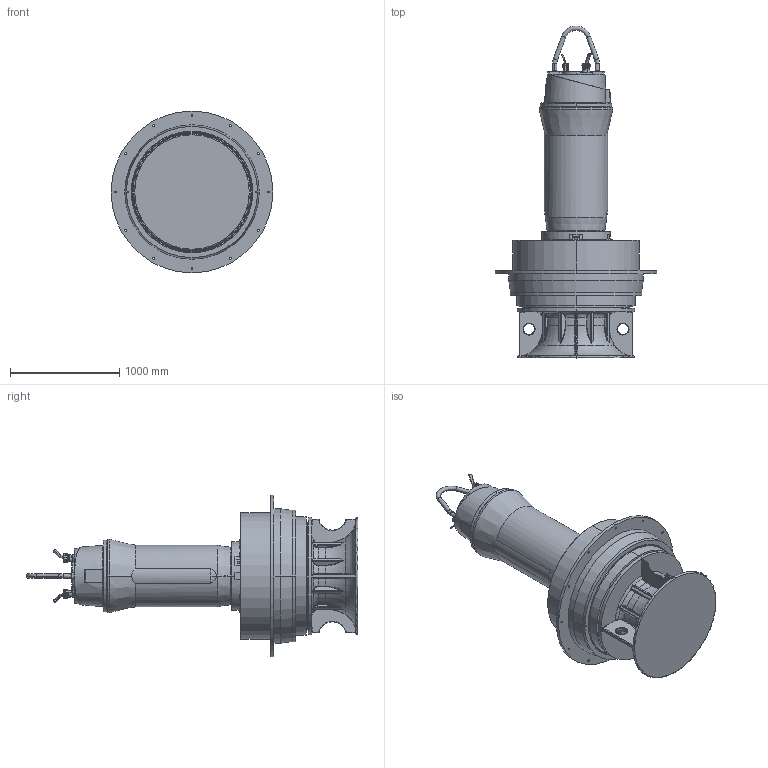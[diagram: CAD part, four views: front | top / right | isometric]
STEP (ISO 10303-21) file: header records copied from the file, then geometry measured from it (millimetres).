
FILE_DESCRIPTION (( 'STEP AP214' ), '1' );
FILE_NAME ('PE6_AFLX12107_FU_C_NG2.STEP', '2017-04-21T11:37:53', ( '' ), ( '' ), 'SwSTEP 2.0', 'SolidWorks 2017', '' );
FILE_SCHEMA (( 'AUTOMOTIVE_DESIGN' ));
Length unit declared in the file: millimetre
Products named in the file (1): PE6_AFLX12107_FU_C_NG2
Bounding box: 1480 x 3037.1 x 1480 mm (x, y, z)
Volume: 1226190390.3 mm3; surface area: 14247202.2 mm2
Topology: 4 solids, 25 shells, 2662 faces, 6408 edges, 3698 vertices
Faces by surface type: bspline 715, plane 671, cylinder 571, torus 295, cone 283, sphere 127
Entity records: 674355 total; most frequent: CARTESIAN_POINT 589328, ORIENTED_EDGE 12432, DIRECTION 10512, EDGE_CURVE 6216, AXIS2_PLACEMENT_3D 4285, VERTEX_POINT 3697, EDGE_LOOP 2843, UNCERTAINTY_MEASURE_WITH_UNIT 2668
